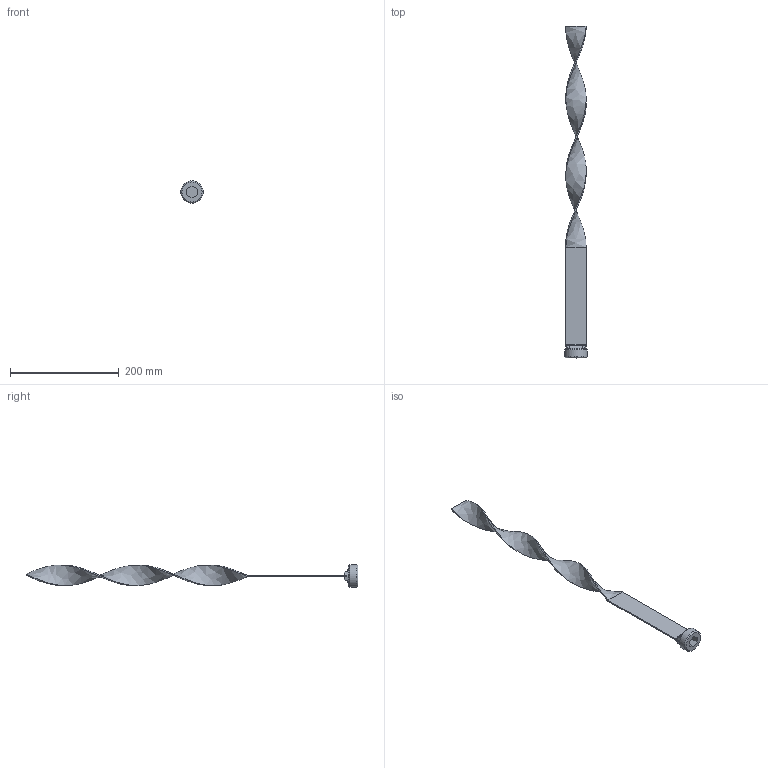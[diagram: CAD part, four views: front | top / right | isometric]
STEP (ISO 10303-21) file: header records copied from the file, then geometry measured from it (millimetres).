
FILE_DESCRIPTION(/* description */ (''),/* implementation_level */ '2;1');
FILE_NAME(/* name */ 'C:/Users/drich/Desktop/TB114X24 v1.step',/* time_stamp */ '2020-01-14T09:05:25-06:00',/* author */ (''),/* organization */ (''),/* preprocessor_version */ 'ST-DEVELOPER v18',/* originating_system */ 'Autodesk Translation Framework v8.12.0.6',/* authorisation */ '');
FILE_SCHEMA (('AUTOMOTIVE_DESIGN { 1 0 10303 214 3 1 1 }'));
Length unit declared in the file: inch
Products named in the file (1): TB114X24
Bounding box: 41.73 x 609.6 x 41.73 mm (x, y, z)
Volume: 74709.9 mm3; surface area: 54019.8 mm2
Topology: 2 solids, 2 shells, 46 faces, 118 edges, 77 vertices
Faces by surface type: plane 21, cylinder 8, bspline 8, torus 7, cone 2
Full cylindrical faces by diameter (mm): 36.474 x1, 41.73 x1
Entity records: 2178 total; most frequent: CARTESIAN_POINT 1061, ORIENTED_EDGE 236, DIRECTION 204, EDGE_CURVE 118, VERTEX_POINT 77, AXIS2_PLACEMENT_3D 75, LINE 54, VECTOR 54
